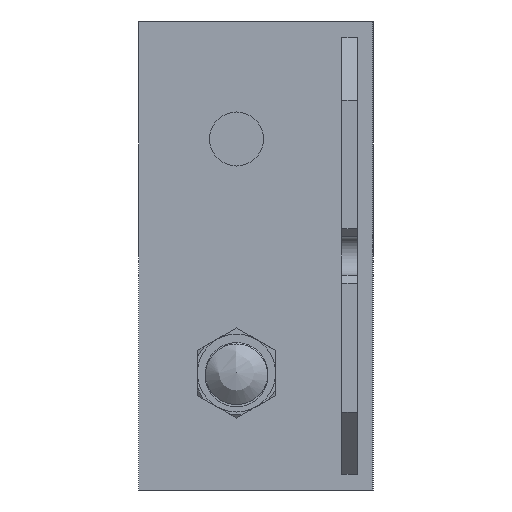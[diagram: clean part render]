
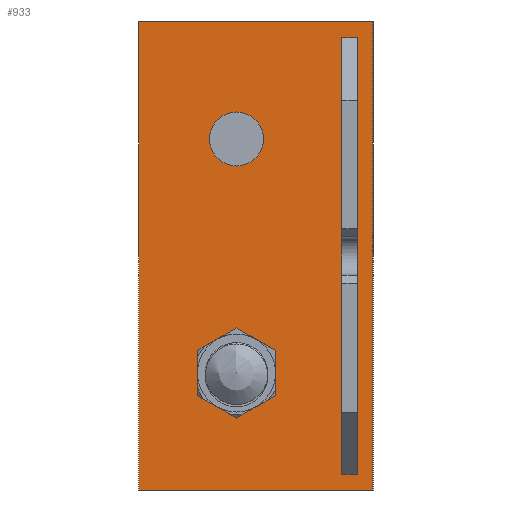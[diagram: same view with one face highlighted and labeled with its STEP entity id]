
A CAD part, left-side view. The second image highlights one B-rep face of the part: STEP entity #933.
In plain terms, the highlighted planar face has unit normal (-1, 0, 0).
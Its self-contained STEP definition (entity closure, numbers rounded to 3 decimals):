
#15=FACE_BOUND('',#375,.T.);
#16=FACE_BOUND('',#376,.T.);
#17=FACE_BOUND('',#377,.T.);
#63=PLANE('',#1024);
#130=LINE('',#1509,#231);
#150=LINE('',#1550,#251);
#151=LINE('',#1553,#252);
#154=LINE('',#1558,#255);
#167=LINE('',#1587,#268);
#168=LINE('',#1590,#269);
#169=LINE('',#1592,#270);
#170=LINE('',#1593,#271);
#231=VECTOR('',#1176,10.);
#251=VECTOR('',#1216,10.);
#252=VECTOR('',#1219,10.);
#255=VECTOR('',#1226,10.);
#268=VECTOR('',#1255,10.);
#269=VECTOR('',#1258,10.);
#270=VECTOR('',#1259,10.);
#271=VECTOR('',#1260,10.);
#323=FACE_OUTER_BOUND('',#374,.T.);
#374=EDGE_LOOP('',(#853,#854,#855,#856));
#375=EDGE_LOOP('',(#857,#858));
#376=EDGE_LOOP('',(#859,#860));
#377=EDGE_LOOP('',(#861,#862,#863,#864));
#394=CIRCLE('',#985,5.);
#395=CIRCLE('',#986,5.);
#398=CIRCLE('',#990,3.464);
#399=CIRCLE('',#991,3.464);
#430=VERTEX_POINT('',#1417);
#431=VERTEX_POINT('',#1419);
#434=VERTEX_POINT('',#1427);
#435=VERTEX_POINT('',#1429);
#466=VERTEX_POINT('',#1506);
#467=VERTEX_POINT('',#1508);
#478=VERTEX_POINT('',#1548);
#479=VERTEX_POINT('',#1552);
#484=VERTEX_POINT('',#1580);
#487=VERTEX_POINT('',#1585);
#488=VERTEX_POINT('',#1589);
#489=VERTEX_POINT('',#1591);
#532=EDGE_CURVE('',#431,#430,#394,.T.);
#533=EDGE_CURVE('',#430,#431,#395,.T.);
#537=EDGE_CURVE('',#435,#434,#398,.T.);
#538=EDGE_CURVE('',#434,#435,#399,.T.);
#575=EDGE_CURVE('',#467,#466,#130,.T.);
#596=EDGE_CURVE('',#466,#478,#150,.T.);
#597=EDGE_CURVE('',#479,#467,#151,.T.);
#600=EDGE_CURVE('',#478,#479,#154,.T.);
#614=EDGE_CURVE('',#484,#487,#167,.T.);
#615=EDGE_CURVE('',#488,#484,#168,.T.);
#616=EDGE_CURVE('',#489,#487,#169,.T.);
#617=EDGE_CURVE('',#488,#489,#170,.T.);
#853=ORIENTED_EDGE('',*,*,#615,.T.);
#854=ORIENTED_EDGE('',*,*,#614,.T.);
#855=ORIENTED_EDGE('',*,*,#616,.F.);
#856=ORIENTED_EDGE('',*,*,#617,.F.);
#857=ORIENTED_EDGE('',*,*,#532,.T.);
#858=ORIENTED_EDGE('',*,*,#533,.T.);
#859=ORIENTED_EDGE('',*,*,#537,.T.);
#860=ORIENTED_EDGE('',*,*,#538,.T.);
#861=ORIENTED_EDGE('',*,*,#597,.T.);
#862=ORIENTED_EDGE('',*,*,#575,.T.);
#863=ORIENTED_EDGE('',*,*,#596,.T.);
#864=ORIENTED_EDGE('',*,*,#600,.T.);
#933=ADVANCED_FACE('',(#323,#15,#16,#17),#63,.T.);
#985=AXIS2_PLACEMENT_3D('',#1420,#1105,#1106);
#986=AXIS2_PLACEMENT_3D('',#1421,#1107,#1108);
#990=AXIS2_PLACEMENT_3D('',#1430,#1116,#1117);
#991=AXIS2_PLACEMENT_3D('',#1431,#1118,#1119);
#1024=AXIS2_PLACEMENT_3D('',#1588,#1256,#1257);
#1105=DIRECTION('center_axis',(1.,0.,0.));
#1106=DIRECTION('ref_axis',(0.,0.,1.));
#1107=DIRECTION('center_axis',(1.,0.,0.));
#1108=DIRECTION('ref_axis',(0.,0.,1.));
#1116=DIRECTION('center_axis',(1.,0.,0.));
#1117=DIRECTION('ref_axis',(0.,0.,1.));
#1118=DIRECTION('center_axis',(1.,0.,0.));
#1119=DIRECTION('ref_axis',(0.,0.,1.));
#1176=DIRECTION('',(0.,0.,-1.));
#1216=DIRECTION('',(0.,1.,0.));
#1219=DIRECTION('',(0.,-1.,0.));
#1226=DIRECTION('',(0.,0.,1.));
#1255=DIRECTION('',(0.,1.,0.));
#1256=DIRECTION('center_axis',(-1.,0.,0.));
#1257=DIRECTION('ref_axis',(0.,0.,1.));
#1258=DIRECTION('',(0.,0.,1.));
#1259=DIRECTION('',(0.,0.,1.));
#1260=DIRECTION('',(0.,1.,0.));
#1417=CARTESIAN_POINT('',(-140.,17.5,-20.));
#1419=CARTESIAN_POINT('',(-140.,17.5,-10.));
#1420=CARTESIAN_POINT('Origin',(-140.,17.5,-15.));
#1421=CARTESIAN_POINT('Origin',(-140.,17.5,-15.));
#1427=CARTESIAN_POINT('',(-140.,17.5,11.536));
#1429=CARTESIAN_POINT('',(-140.,17.5,18.464));
#1430=CARTESIAN_POINT('Origin',(-140.,17.5,15.));
#1431=CARTESIAN_POINT('Origin',(-140.,17.5,15.));
#1506=CARTESIAN_POINT('',(-140.,2.,-28.));
#1508=CARTESIAN_POINT('',(-140.,2.,28.));
#1509=CARTESIAN_POINT('',(-140.,2.,-15.));
#1548=CARTESIAN_POINT('',(-140.,4.,-28.));
#1550=CARTESIAN_POINT('',(-140.,1.,-28.));
#1552=CARTESIAN_POINT('',(-140.,4.,28.));
#1553=CARTESIAN_POINT('',(-140.,1.,28.));
#1558=CARTESIAN_POINT('',(-140.,4.,-15.));
#1580=CARTESIAN_POINT('',(-140.,0.,30.));
#1585=CARTESIAN_POINT('',(-140.,30.,30.));
#1587=CARTESIAN_POINT('',(-140.,0.,30.));
#1588=CARTESIAN_POINT('Origin',(-140.,0.,-30.));
#1589=CARTESIAN_POINT('',(-140.,0.,-30.));
#1590=CARTESIAN_POINT('',(-140.,0.,-30.));
#1591=CARTESIAN_POINT('',(-140.,30.,-30.));
#1592=CARTESIAN_POINT('',(-140.,30.,-30.));
#1593=CARTESIAN_POINT('',(-140.,0.,-30.));
